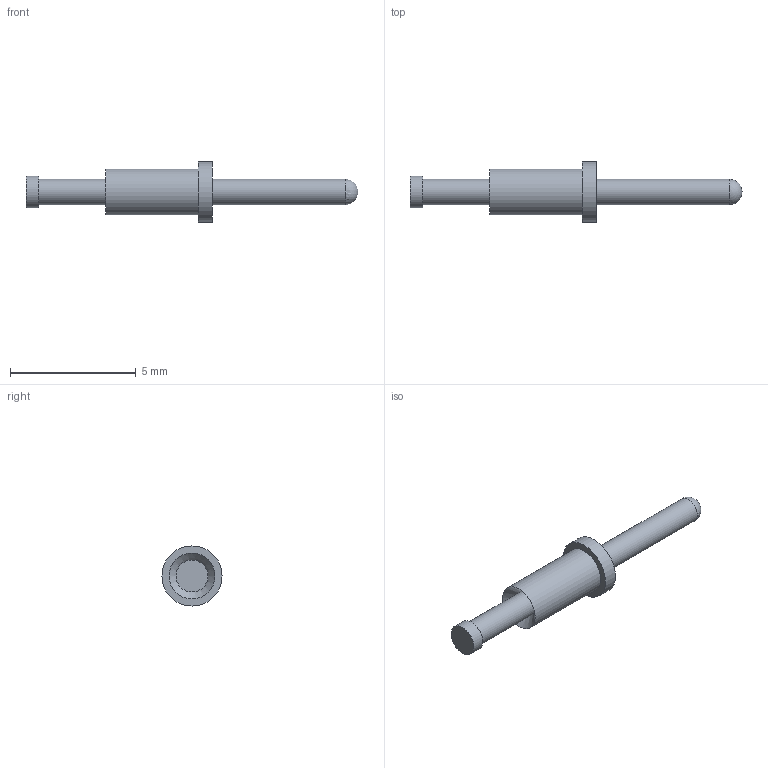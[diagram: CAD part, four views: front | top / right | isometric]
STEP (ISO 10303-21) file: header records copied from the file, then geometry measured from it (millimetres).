
FILE_DESCRIPTION(/* description */ (''),/* implementation_level */ '2;1');
FILE_NAME(/* name */ 'Z:\STEP folder\120-1030-04.ipt.stp',/* time_stamp */ '2016-12-07T10:26:39+00:00',/* author */ ('Paul Karlsons'),/* organization */ (''),/* preprocessor_version */ 'ST-DEVELOPER v15.2',/* originating_system */ 'Autodesk Inventor 2014',/* authorisation */ '');
FILE_SCHEMA (('AUTOMOTIVE_DESIGN { 1 0 10303 214 3 1 1 }'));
Length unit declared in the file: millimetre
Products named in the file (1): 120-1030-04
Bounding box: 13.2 x 2.39 x 2.39 mm (x, y, z)
Volume: 19.2 mm3; surface area: 65.5 mm2
Topology: 1 solids, 1 shells, 11 faces, 20 edges, 12 vertices
Faces by surface type: cylinder 5, plane 4, cone 1, sphere 1
Full cylindrical faces by diameter (mm): 1.016 x2, 1.27 x1, 1.829 x1, 2.388 x1
Entity records: 235 total; most frequent: DIRECTION 44, CARTESIAN_POINT 32, AXIS2_PLACEMENT_3D 22, EDGE_LOOP 20, ORIENTED_EDGE 20, FACE_BOUND 11, ADVANCED_FACE 11, CIRCLE 10
